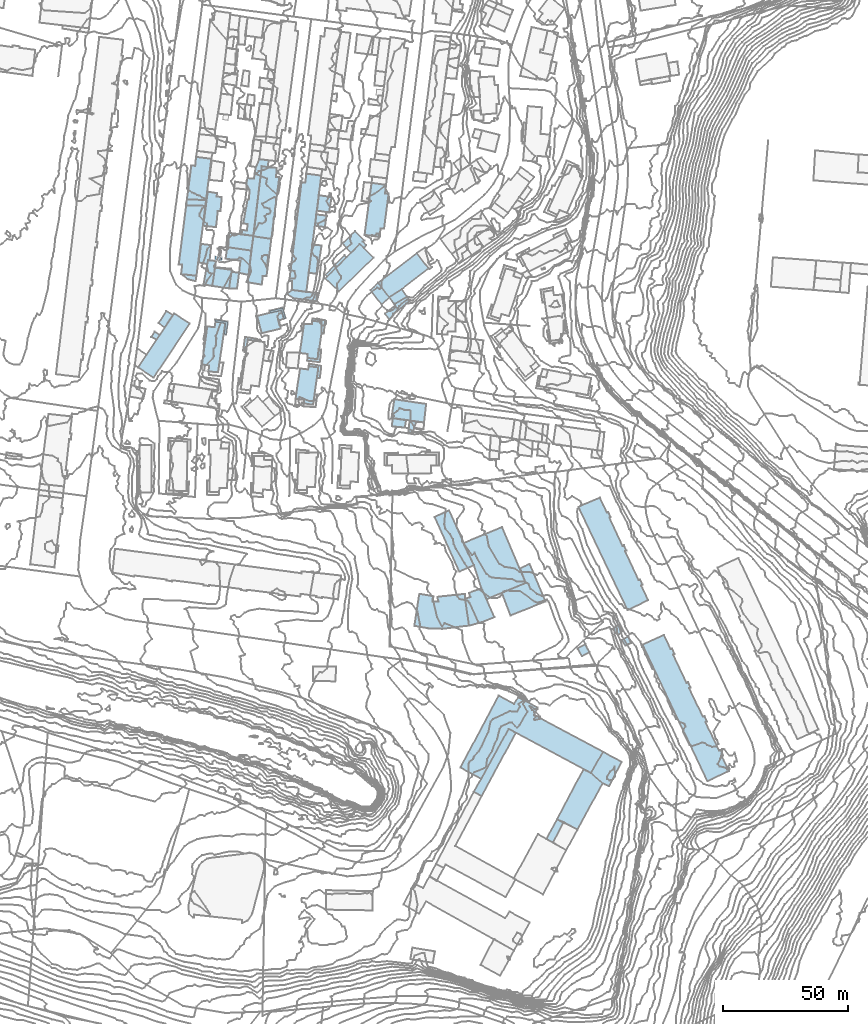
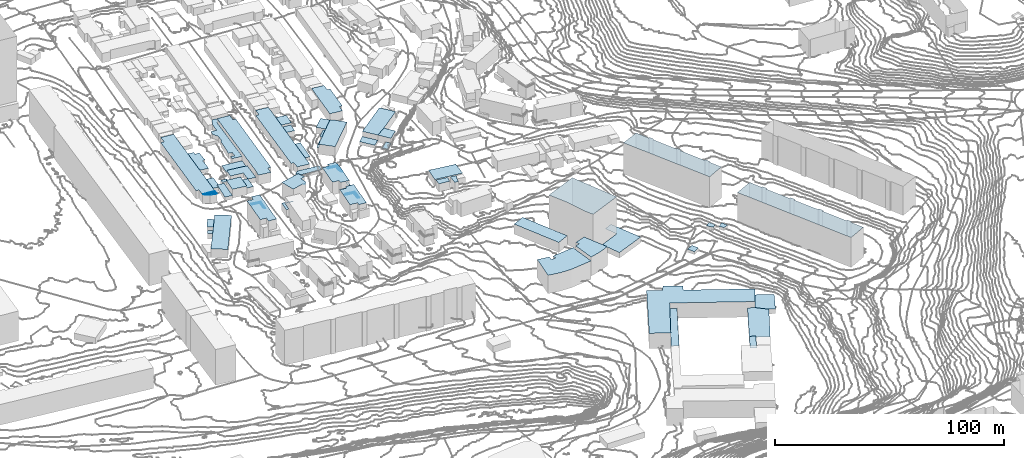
# Not in any storey, part 81 of 419: 57 roofs.
"""IFC2X3 model written with IfcOpenShell, lengths in metres."""

from ifc_helpers import new_model, si_unit, frame, origin_with_axes, place, context, subcontext, project, faceted_brep, element, save


model = new_model("IFC2X3")

# Units and contexts
model_context = context("Model", 3, precision=1e-05, world=origin_with_axes())
body_context = subcontext(model_context, "Body", "Model", "MODEL_VIEW")
ifc_project = project(units=[si_unit("AREAUNIT", "SQUARE_METRE"), si_unit("LENGTHUNIT", "METRE")], contexts=[model_context])

# Roofs
roof_1_placement = place(None, frame((580.0920204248, 606.6976909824, 41.2512004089), z_axis=(0.0, 0.0, 1.0), x_axis=(1.0, 0.0, 0.0)))
element("IfcRoof", 1, at=roof_1_placement, Name="Toiture 0", ShapeType="NOTDEFINED", context=body_context, shape_type="Brep", body=[
    faceted_brep([(9.9, -21.8999999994, 5.3487995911), (15.7, -19.2999999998, 5.3487995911), (5.8, 2.6000000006, 5.3487995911), (0.0, 0.0, 5.3487995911)], [[[0, 1, 2]], [[2, 3, 0]]]),
])
roof_2_placement = place(None, frame((532.2920204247, 723.0976909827, 38.54), z_axis=(0.0, 0.0, 1.0), x_axis=(1.0, 0.0, 0.0)))
element("IfcRoof", 2, at=roof_2_placement, Name="Toiture 0", ShapeType="NOTDEFINED", context=body_context, shape_type="Brep", body=[
    faceted_brep([(4.6000000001, 4.0, 3.06), (0.5, 4.5, 3.06), (0.0, 0.0, 3.06), (3.9, -0.6000000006, 3.06)], [[[0, 1, 2]], [[2, 3, 0]]]),
])
roof_3_placement = place(None, frame((533.0920204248, 729.0976909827, 38.442999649), z_axis=(0.0, 0.0, 1.0), x_axis=(1.0, 0.0, 0.0)))
element("IfcRoof", 3, at=roof_3_placement, Name="Toiture 0", ShapeType="NOTDEFINED", context=body_context, shape_type="Brep", body=[
    faceted_brep([(5.8, 5.3999999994, 3.157000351), (0.7, 6.2000000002, 3.157000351), (0.0, 0.0, 3.157000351), (4.8, -0.7000000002, 3.157000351)], [[[0, 1, 2]], [[2, 3, 0]]]),
])
roof_4_placement = place(None, frame((491.1920204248, 698.9976909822, 35.623999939), z_axis=(0.0, 0.0, 1.0), x_axis=(1.0, 0.0, 0.0)))
element("IfcRoof", 4, at=roof_4_placement, Name="Toiture 0", ShapeType="NOTDEFINED", context=body_context, shape_type="Brep", body=[
    faceted_brep([(0.0, 0.0, 4.676000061), (6.7000000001, -1.0, 4.676000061), (7.8, 6.4000000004, 4.676000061), (1.1, 7.3000000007, 4.676000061)], [[[0, 1, 2]], [[2, 3, 0]]]),
])
roof_5_placement = place(None, frame((628.9920204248, 485.6976909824, 39.5445994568), z_axis=(0.0, 0.0, 1.0), x_axis=(1.0, 0.0, 0.0)))
element("IfcRoof", 5, at=roof_5_placement, Name="Toiture 0", ShapeType="NOTDEFINED", context=body_context, shape_type="Brep", body=[
    faceted_brep([(13.6, 18.5, 2.7554005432), (10.6, 20.0, 2.7554005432), (0.0, 0.0, 2.7554005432), (8.2, -4.0999999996, 2.7554005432), (18.2, 14.4000000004, 2.7554005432)], [[[0, 1, 2]], [[2, 3, 4]], [[4, 0, 2]]]),
])
roof_6_placement = place(None, frame((624.7920204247, 477.7976909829, 39.5445994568), z_axis=(0.0, 0.0, 1.0), x_axis=(1.0, 0.0, 0.0)))
element("IfcRoof", 6, at=roof_6_placement, Name="Toiture 0", ShapeType="NOTDEFINED", context=body_context, shape_type="Brep", body=[
    faceted_brep([(6.8, 6.7999999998, 3.3554005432), (4.2000000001, 7.8999999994, 3.3554005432), (0.0, 0.0, 3.3554005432), (2.6000000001, -1.4000000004, 3.3554005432)], [[[0, 1, 2]], [[2, 3, 0]]]),
])
roof_7_placement = place(None, frame((503.4920204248, 673.0976909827, 36.7057994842), z_axis=(0.0, 0.0, 1.0), x_axis=(1.0, 0.0, 0.0)))
element("IfcRoof", 7, at=roof_7_placement, Name="Toiture 0", ShapeType="NOTDEFINED", context=body_context, shape_type="Brep", body=[
    faceted_brep([(1.9, 4.3999999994, 3.9942005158), (5.7, 3.8999999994, 3.9942005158), (5.7, 4.7000000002, 3.9942005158), (0.7999999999, 5.5, 3.9942005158), (0.0, 0.0, 3.9942005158), (1.2999999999, 0.0999999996, 3.9942005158)], [[[0, 1, 2]], [[3, 4, 5]], [[0, 2, 3]], [[3, 5, 0]]]),
])
roof_8_placement = place(None, frame((514.0920204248, 689.0976909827, 37.3319997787), z_axis=(0.0, 0.0, 1.0), x_axis=(1.0, 0.0, 0.0)))
element("IfcRoof", 8, at=roof_8_placement, Name="Toiture 0", ShapeType="NOTDEFINED", context=body_context, shape_type="Brep", body=[
    faceted_brep([(0.0, 0.0, 3.5680002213), (0.2, -0.7999999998, 3.5680002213), (4.7, 0.2000000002, 3.5680002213), (5.8, -3.2000000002, 3.5680002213), (6.4, -2.9000000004, 3.5680002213), (5.2, 1.2000000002, 3.5680002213)], [[[0, 1, 2]], [[2, 3, 4]], [[5, 0, 2]], [[2, 4, 5]]]),
])
roof_9_placement = place(None, frame((595.6920204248, 496.6976909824, 39.4398013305), z_axis=(0.0, 0.0, 1.0), x_axis=(1.0, 0.0, 0.0)))
element("IfcRoof", 9, at=roof_9_placement, Name="Toiture 0", ShapeType="NOTDEFINED", context=body_context, shape_type="Brep", body=[
    faceted_brep([(3.0, 5.2000000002, 3.1601986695), (0.0, 0.0, 3.1601986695), (3.2000000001, -1.7000000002, 3.1601986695), (16.8, 23.6000000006, 3.1601986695), (14.0, 25.2000000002, 3.1601986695)], [[[0, 1, 2]], [[2, 3, 4]], [[4, 0, 2]]]),
])
roof_10_placement = place(None, frame((536.3920204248, 703.4976909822, 41.2411993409), z_axis=(0.0, 0.0, 1.0), x_axis=(1.0, 0.0, 0.0)))
element("IfcRoof", 10, at=roof_10_placement, Name="Toiture 0", ShapeType="NOTDEFINED", context=body_context, shape_type="Brep", body=[
    faceted_brep([(0.0, 0.0, 2.9588006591), (0.7, -0.6999999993, 2.9588006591), (4.7, 3.2000000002, 2.9588006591), (3.7999999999, 4.0, 2.9588006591)], [[[0, 1, 2]], [[2, 3, 0]]]),
])
roof_11_placement = place(None, frame((496.4920204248, 709.8976909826, 36.4627999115), z_axis=(0.0, 0.0, 1.0), x_axis=(1.0, 0.0, 0.0)))
element("IfcRoof", 11, at=roof_11_placement, Name="Toiture 0", ShapeType="NOTDEFINED", context=body_context, shape_type="Brep", body=[
    faceted_brep([(5.4, -5.7000000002, 2.4372000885), (9.2, -6.5, 2.4372000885), (10.2999999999, 3.2000000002, 2.4372000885), (0.7, 4.5999999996, 2.4372000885), (0.0, 0.0, 2.4372000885), (6.0, -0.7999999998, 2.4372000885)], [[[0, 1, 2]], [[2, 3, 4]], [[5, 0, 2]], [[2, 4, 5]]]),
])
roof_12_placement = place(None, frame((502.8920204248, 719.6976909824, 37.1452000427), z_axis=(0.0, 0.0, 1.0), x_axis=(1.0, 0.0, 0.0)))
element("IfcRoof", 12, at=roof_12_placement, Name="Toiture 0", ShapeType="NOTDEFINED", context=body_context, shape_type="Brep", body=[
    faceted_brep([(10.5, 26.7999999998, 2.8547999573), (10.7999999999, 29.5, 2.8547999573), (7.1, 30.0, 2.8547999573), (5.6, 26.5, 2.8547999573), (5.0, 22.2000000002, 2.8547999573), (2.3999999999, 22.4000000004, 2.8547999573), (1.8999999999, 20.2999999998, 2.8547999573), (2.8999999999, 13.9000000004, 2.8547999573), (2.3999999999, 13.9000000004, 2.8547999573), (0.7, 4.2999999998, 2.8547999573), (2.2, 1.4000000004, 2.8547999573), (0.2999999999, 1.7000000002, 2.8547999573), (0.0, 0.0, 2.8547999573), (8.1, 27.2000000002, 2.8547999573), (3.2999999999, 17.7000000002, 2.8547999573), (2.3999999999, 4.0, 2.8547999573), (4.7999999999, -0.7000000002, 2.8547999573)], [[[0, 1, 2]], [[2, 3, 4]], [[4, 5, 6]], [[7, 8, 9]], [[10, 11, 12]], [[13, 0, 2]], [[4, 6, 14]], [[7, 9, 15]], [[10, 12, 16]], [[16, 13, 2]], [[4, 14, 7]], [[15, 10, 16]], [[16, 2, 4]], [[4, 7, 15]], [[15, 16, 4]]]),
])
roof_13_placement = place(None, frame((554.4920204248, 697.3976909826, 42.8836994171), z_axis=(0.0, 0.0, 1.0), x_axis=(1.0, 0.0, 0.0)))
element("IfcRoof", 13, at=roof_13_placement, Name="Toiture 0", ShapeType="NOTDEFINED", context=body_context, shape_type="Brep", body=[
    faceted_brep([(4.4, -5.7000000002, 1.6163005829), (7.5, -2.9000000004, 1.6163005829), (3.0, 2.9000000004, 1.6163005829), (0.0, 0.0, 1.6163005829)], [[[0, 1, 2]], [[2, 3, 0]]]),
])
roof_14_placement = place(None, frame((469.6920204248, 684.0976909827, 34.6607994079), z_axis=(0.0, 0.0, 1.0), x_axis=(1.0, 0.0, 0.0)))
element("IfcRoof", 14, at=roof_14_placement, Name="Toiture 0", ShapeType="NOTDEFINED", context=body_context, shape_type="Brep", body=[
    faceted_brep([(2.4, -1.7000000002, 2.2392005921), (5.7000000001, 3.2000000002, 2.2392005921), (3.1, 4.8999999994, 2.2392005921), (0.0, 0.0, 2.2392005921)], [[[0, 1, 2]], [[2, 3, 0]]]),
])
roof_15_placement = place(None, frame((531.1920204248, 685.0976909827, 41.7803999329), z_axis=(0.0, 0.0, 1.0), x_axis=(1.0, 0.0, 0.0)))
element("IfcRoof", 15, at=roof_15_placement, Name="Toiture 0", ShapeType="NOTDEFINED", context=body_context, shape_type="Brep", body=[
    faceted_brep([(0.1, 0.8999999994, 3.9196000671), (0.0, 0.0, 3.9196000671), (3.8, -0.5, 3.9196000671), (3.7000000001, -4.9000000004, 3.9196000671), (4.6, -5.1000000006, 3.9196000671), (5.1, 0.0999999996, 3.9196000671)], [[[0, 1, 2]], [[2, 3, 4]], [[5, 0, 2]], [[2, 4, 5]]]),
])
roof_16_placement = place(None, frame((487.5920204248, 723.0976909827, 34.9640010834), z_axis=(0.0, 0.0, 1.0), x_axis=(1.0, 0.0, 0.0)))
element("IfcRoof", 16, at=roof_16_placement, Name="Toiture 0", ShapeType="NOTDEFINED", context=body_context, shape_type="Brep", body=[
    faceted_brep([(5.5, 13.0, 1.8359989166), (1.8, 13.5999999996, 1.8359989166), (0.0, 0.0, 1.8359989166), (5.1, -0.6000000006, 1.8359989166), (5.8, 5.7999999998, 1.8359989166), (6.9, 5.7999999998, 1.8359989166), (7.4, 11.5, 1.8359989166), (5.3, 11.5999999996, 1.8359989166)], [[[0, 1, 2]], [[2, 3, 4]], [[4, 5, 6]], [[7, 0, 2]], [[2, 4, 6]], [[6, 7, 2]]]),
])
roof_17_placement = place(None, frame((592.2920204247, 573.9976909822, 40.4176000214), z_axis=(0.0, 0.0, 1.0), x_axis=(1.0, 0.0, 0.0)))
element("IfcRoof", 17, at=roof_17_placement, Name="Toiture 0", ShapeType="NOTDEFINED", context=body_context, shape_type="Brep", body=[
    faceted_brep([(2.1000000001, 0.6000000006, 10.0823999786), (0.0, 0.0, 10.0823999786), (1.6000000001, -10.7999999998, 10.0823999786), (6.8, -9.3999999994, 10.0823999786), (11.7000000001, -7.3999999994, 10.0823999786), (6.6000000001, 4.1000000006, 10.0823999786), (1.5, 2.3000000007, 10.0823999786)], [[[0, 1, 2]], [[2, 3, 4]], [[4, 5, 6]], [[0, 2, 4]], [[4, 6, 0]]]),
])
roof_18_placement = place(None, frame((561.9920204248, 694.4976909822, 43.3685993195), z_axis=(0.0, 0.0, 1.0), x_axis=(1.0, 0.0, 0.0)))
element("IfcRoof", 18, at=roof_18_placement, Name="Toiture 0", ShapeType="NOTDEFINED", context=body_context, shape_type="Brep", body=[
    faceted_brep([(5.0, 3.3000000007, 3.8314006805), (0.0, 0.0, 3.8314006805), (3.7, -5.0999999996, 3.8314006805), (8.2, -1.1999999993, 3.8314006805)], [[[0, 1, 2]], [[2, 3, 0]]]),
])
roof_19_placement = place(None, frame((543.2920204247, 716.0976909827, 41.3683003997), z_axis=(0.0, 0.0, 1.0), x_axis=(1.0, 0.0, 0.0)))
element("IfcRoof", 19, at=roof_19_placement, Name="Toiture 0", ShapeType="NOTDEFINED", context=body_context, shape_type="Brep", body=[
    faceted_brep([(6.8, -0.4000000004, 3.4316996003), (8.6000000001, -1.9000000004, 3.4316996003), (9.4, -0.7999999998, 3.4316996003), (8.0, 0.5999999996, 3.4316996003), (8.7000000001, 1.0999999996, 3.4316996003), (5.0, 4.8999999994, 3.4316996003), (0.0, 0.0, 3.4316996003), (3.4, -3.7999999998, 3.4316996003)], [[[0, 1, 2]], [[3, 4, 5]], [[5, 6, 7]], [[0, 2, 3]], [[5, 7, 0]], [[0, 3, 5]]]),
])
roof_20_placement = place(None, frame((571.9920204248, 563.0976909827, 38.7227992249), z_axis=(0.0, 0.0, 1.0), x_axis=(1.0, 0.0, 0.0)))
element("IfcRoof", 20, at=roof_20_placement, Name="Toiture 0", ShapeType="NOTDEFINED", context=body_context, shape_type="Brep", body=[
    faceted_brep([(20.2999999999, 10.8999999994, 9.7772007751), (20.2999999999, 12.7999999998, 9.7772007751), (9.2, 11.5999999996, 9.7772007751), (7.2999999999, 9.7000000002, 9.7772007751), (7.6, 11.7999999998, 9.7772007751), (2.0, 12.7999999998, 9.7772007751), (0.0, 0.0, 9.7772007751), (5.6, -1.0, 9.7772007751), (11.1, -1.2000000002, 9.7772007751), (21.9, 0.0999999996, 9.7772007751), (9.6, 9.7999999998, 9.7772007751)], [[[0, 1, 2]], [[3, 4, 5]], [[5, 6, 7]], [[7, 8, 9]], [[9, 0, 2]], [[3, 5, 7]], [[9, 2, 10]], [[10, 3, 7]], [[7, 9, 10]]]),
])
roof_21_placement = place(None, frame((591.5920204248, 596.1976909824, 41.9024003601), z_axis=(0.0, 0.0, 1.0), x_axis=(1.0, 0.0, 0.0)))
element("IfcRoof", 21, at=roof_21_placement, Name="Toiture 0", ShapeType="NOTDEFINED", context=body_context, shape_type="Brep", body=[
    faceted_brep([(4.2, -8.7999999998, 22.4975996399), (7.3, -18.0999999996, 22.4975996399), (9.4, -22.3999999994, 22.4975996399), (25.0, -15.8999999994, 22.4975996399), (15.5, 6.4000000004, 22.4975996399), (0.0, 0.0, 22.4975996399)], [[[0, 1, 2]], [[2, 3, 4]], [[4, 5, 0]], [[0, 2, 4]]]),
])
roof_22_placement = place(None, frame((562.9920204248, 642.8976909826, 47.7364006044), z_axis=(0.0, 0.0, 1.0), x_axis=(1.0, 0.0, 0.0)))
element("IfcRoof", 22, at=roof_22_placement, Name="Toiture 0", ShapeType="NOTDEFINED", context=body_context, shape_type="Brep", body=[
    faceted_brep([(5.7, 2.4000000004, 4.3635993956), (0.4, 3.2000000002, 4.3635993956), (0.0, 0.0, 4.3635993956), (5.2, -0.5999999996, 4.3635993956)], [[[0, 1, 2]], [[2, 3, 0]]]),
])
roof_23_placement = place(None, frame((606.9920204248, 576.2976909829, 41.6300006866), z_axis=(0.0, 0.0, 1.0), x_axis=(1.0, 0.0, 0.0)))
element("IfcRoof", 23, at=roof_23_placement, Name="Toiture 0", ShapeType="NOTDEFINED", context=body_context, shape_type="Brep", body=[
    faceted_brep([(9.6, 4.0, 2.9699993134), (0.0, 0.0, 2.9699993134), (3.5, -9.0, 2.9699993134), (17.5, -3.4000000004, 2.9699993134), (11.1, 11.5999999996, 2.9699993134), (7.2999999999, 9.7999999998, 2.9699993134)], [[[0, 1, 2]], [[3, 4, 5]], [[0, 2, 3]], [[3, 5, 0]]]),
])
roof_24_placement = place(None, frame((557.4920204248, 700.2976909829, 42.8836994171), z_axis=(0.0, 0.0, 1.0), x_axis=(1.0, 0.0, 0.0)))
element("IfcRoof", 24, at=roof_24_placement, Name="Toiture 0", ShapeType="NOTDEFINED", context=body_context, shape_type="Brep", body=[
    faceted_brep([(9.5, -2.5, 4.3163005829), (20.2, 5.7999999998, 4.3163005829), (15.5, 11.8999999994, 4.3163005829), (0.0, 0.0, 4.3163005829), (4.5, -5.8000000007, 4.3163005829)], [[[0, 1, 2]], [[2, 3, 4]], [[4, 0, 2]]]),
])
roof_25_placement = place(None, frame((524.4920204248, 653.7976909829, 40.8986994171), z_axis=(0.0, 0.0, 1.0), x_axis=(1.0, 0.0, 0.0)))
element("IfcRoof", 25, at=roof_25_placement, Name="Toiture 0", ShapeType="NOTDEFINED", context=body_context, shape_type="Brep", body=[
    faceted_brep([(1.7999999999, 12.1999999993, 6.9013005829), (0.0, 0.0, 6.9013005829), (3.5, -0.4000000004, 6.9013005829), (3.4, -1.8000000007, 6.9013005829), (7.0, -2.3000000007, 6.9013005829), (9.1, 12.5999999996, 6.9013005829), (5.2999999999, 13.0999999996, 6.9013005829), (5.0, 11.7999999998, 6.9013005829)], [[[0, 1, 2]], [[2, 3, 4]], [[4, 5, 6]], [[7, 0, 2]], [[2, 4, 6]], [[6, 7, 2]]]),
])
roof_26_placement = place(None, frame((642.5920204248, 504.1976909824, 39.7652008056), z_axis=(0.0, 0.0, 1.0), x_axis=(1.0, 0.0, 0.0)))
element("IfcRoof", 26, at=roof_26_placement, Name="Toiture 0", ShapeType="NOTDEFINED", context=body_context, shape_type="Brep", body=[
    faceted_brep([(4.8, 8.5, 2.5347991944), (0.0, 0.0, 2.5347991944), (4.6, -4.0999999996, 2.5347991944), (7.3, -5.2000000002, 2.5347991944), (12.2, 4.5, 2.5347991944)], [[[0, 1, 2]], [[2, 3, 4]], [[4, 0, 2]]]),
])
roof_27_placement = place(None, frame((540.1920204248, 707.4976909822, 42.1155997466), z_axis=(0.0, 0.0, 1.0), x_axis=(1.0, 0.0, 0.0)))
element("IfcRoof", 27, at=roof_27_placement, Name="Toiture 0", ShapeType="NOTDEFINED", context=body_context, shape_type="Brep", body=[
    faceted_brep([(0.0, 0.0, 3.9844002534), (0.9, -0.7999999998, 3.9844002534), (4.7000000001, 3.0, 3.9844002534), (3.9, 3.8000000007, 3.9844002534)], [[[0, 1, 2]], [[2, 3, 0]]]),
])
roof_28_placement = place(None, frame((651.2920204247, 561.8976909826, 45.8280008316), z_axis=(0.0, 0.0, 1.0), x_axis=(1.0, 0.0, 0.0)))
element("IfcRoof", 28, at=roof_28_placement, Name="Toiture 0", ShapeType="NOTDEFINED", context=body_context, shape_type="Brep", body=[
    faceted_brep([(4.0, -0.9000000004, 2.0719991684), (2.3, 1.5999999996, 2.0719991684), (0.0, 0.0, 2.0719991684), (2.1000000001, -2.5, 2.0719991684)], [[[0, 1, 2]], [[2, 3, 0]]]),
])
roof_29_placement = place(None, frame((529.7920204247, 704.2976909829, 38.294998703), z_axis=(0.0, 0.0, 1.0), x_axis=(1.0, 0.0, 0.0)))
element("IfcRoof", 29, at=roof_29_placement, Name="Toiture 0", ShapeType="NOTDEFINED", context=body_context, shape_type="Brep", body=[
    faceted_brep([(1.4, 11.1999999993, 1.805001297), (0.0, 0.0, 1.805001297), (3.3, -0.5, 1.805001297), (5.1000000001, 10.8999999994, 1.805001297)], [[[0, 1, 2]], [[2, 3, 0]]]),
])
roof_30_placement = place(None, frame((520.9920204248, 695.7976909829, 38.1628002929), z_axis=(0.0, 0.0, 1.0), x_axis=(1.0, 0.0, 0.0)))
element("IfcRoof", 30, at=roof_30_placement, Name="Toiture 0", ShapeType="NOTDEFINED", context=body_context, shape_type="Brep", body=[
    faceted_brep([(12.2, 0.2999999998, 1.7371997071), (2.0, 1.5999999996, 1.7371997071), (0.0, 0.0, 1.7371997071), (2.6, -1.7000000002, 1.7371997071), (11.7, -2.9000000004, 1.7371997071)], [[[0, 1, 2]], [[2, 3, 4]], [[4, 0, 2]]]),
])
roof_31_placement = place(None, frame((492.0920204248, 709.2976909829, 35.5023989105), z_axis=(0.0, 0.0, 1.0), x_axis=(1.0, 0.0, 0.0)))
element("IfcRoof", 31, at=roof_31_placement, Name="Toiture 0", ShapeType="NOTDEFINED", context=body_context, shape_type="Brep", body=[
    faceted_brep([(0.0, 0.0, 1.8976010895), (2.8, -0.4000000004, 1.8976010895), (3.1, 1.5, 1.8976010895), (0.1, 1.7999999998, 1.8976010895)], [[[0, 1, 2]], [[2, 3, 0]]]),
])
roof_32_placement = place(None, frame((487.6920204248, 699.5976909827, 35.014600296), z_axis=(0.0, 0.0, 1.0), x_axis=(1.0, 0.0, 0.0)))
element("IfcRoof", 32, at=roof_32_placement, Name="Toiture 0", ShapeType="NOTDEFINED", context=body_context, shape_type="Brep", body=[
    faceted_brep([(1.5, 8.0999999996, 1.985399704), (0.0, 0.0, 1.985399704), (3.5, -0.6000000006, 1.985399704), (5.0, 9.2999999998, 1.985399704), (1.8, 9.7999999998, 1.985399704)], [[[0, 1, 2]], [[2, 3, 4]], [[4, 0, 2]]]),
])
roof_33_placement = place(None, frame((560.2920204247, 687.9976909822, 44.2156001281), z_axis=(0.0, 0.0, 1.0), x_axis=(1.0, 0.0, 0.0)))
element("IfcRoof", 33, at=roof_33_placement, Name="Toiture 0", ShapeType="NOTDEFINED", context=body_context, shape_type="Brep", body=[
    faceted_brep([(5.4, 1.4000000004, 0.4843998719), (3.9, 3.3000000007, 0.4843998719), (0.0, 0.0, 0.4843998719), (1.6000000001, -2.1999999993, 0.4843998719)], [[[0, 1, 2]], [[2, 3, 0]]]),
])
roof_34_placement = place(None, frame((654.9920204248, 557.3976909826, 47.5459991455), z_axis=(0.0, 0.0, 1.0), x_axis=(1.0, 0.0, 0.0)))
element("IfcRoof", 34, at=roof_34_placement, Name="Toiture 0", ShapeType="NOTDEFINED", context=body_context, shape_type="Brep", body=[
    faceted_brep([(2.6, 1.5999999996, 1.5540008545), (0.0, 0.0, 1.5540008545), (1.4, -2.0999999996, 1.5540008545), (3.6, -1.2000000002, 1.5540008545)], [[[0, 1, 2]], [[2, 3, 0]]]),
])
roof_35_placement = place(None, frame((536.3920204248, 701.9976909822, 41.3607991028), z_axis=(0.0, 0.0, 1.0), x_axis=(1.0, 0.0, 0.0)))
element("IfcRoof", 35, at=roof_35_placement, Name="Toiture 0", ShapeType="NOTDEFINED", context=body_context, shape_type="Brep", body=[
    faceted_brep([(19.2, 8.4000000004, 5.3392008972), (15.5, 12.2000000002, 5.3392008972), (13.7, 13.7000000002, 5.3392008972), (0.0, 0.0, 5.3392008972), (5.3999999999, -5.1999999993, 5.3392008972)], [[[0, 1, 2]], [[2, 3, 4]], [[4, 0, 2]]]),
])
roof_36_placement = place(None, frame((497.1920204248, 714.4976909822, 36.4867996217), z_axis=(0.0, 0.0, 1.0), x_axis=(1.0, 0.0, 0.0)))
element("IfcRoof", 36, at=roof_36_placement, Name="Toiture 0", ShapeType="NOTDEFINED", context=body_context, shape_type="Brep", body=[
    faceted_brep([(9.6, -1.3999999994, 1.2132003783), (10.5, 4.5, 1.2132003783), (0.8, 5.7000000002, 1.2132003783), (0.0, 0.0, 1.2132003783)], [[[0, 1, 2]], [[2, 3, 0]]]),
])
roof_37_placement = place(None, frame((529.0920204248, 669.0976909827, 41.3235997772), z_axis=(0.0, 0.0, 1.0), x_axis=(1.0, 0.0, 0.0)))
element("IfcRoof", 37, at=roof_37_placement, Name="Toiture 0", ShapeType="NOTDEFINED", context=body_context, shape_type="Brep", body=[
    faceted_brep([(4.2, 0.5999999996, 3.1764002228), (0.2, 1.0999999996, 3.1764002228), (0.0, 0.0, 3.1764002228), (5.1, -0.6000000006, 3.1764002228), (5.7, 4.5, 3.1764002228), (4.6, 4.5999999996, 3.1764002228)], [[[0, 1, 2]], [[3, 4, 5]], [[0, 2, 3]], [[3, 5, 0]]]),
])
roof_38_placement = place(None, frame((529.7920204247, 666.8976909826, 41.1484007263), z_axis=(0.0, 0.0, 1.0), x_axis=(1.0, 0.0, 0.0)))
element("IfcRoof", 38, at=roof_38_placement, Name="Toiture 0", ShapeType="NOTDEFINED", context=body_context, shape_type="Brep", body=[
    faceted_brep([(0.1000000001, 1.0, 2.0515992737), (0.0, 0.0, 2.0515992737), (3.8, -0.5, 2.0515992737), (3.3, -4.7000000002, 2.0515992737), (4.4, -4.7999999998, 2.0515992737), (5.0, 0.0999999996, 2.0515992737)], [[[0, 1, 2]], [[2, 3, 4]], [[5, 0, 2]], [[2, 4, 5]]]),
])
roof_39_placement = place(None, frame((637.2920204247, 554.0976909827, 43.4216000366), z_axis=(0.0, 0.0, 1.0), x_axis=(1.0, 0.0, 0.0)))
element("IfcRoof", 39, at=roof_39_placement, Name="Toiture 0", ShapeType="NOTDEFINED", context=body_context, shape_type="Brep", body=[
    faceted_brep([(4.7000000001, -1.5, 1.5783999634), (3.1000000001, 1.7000000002, 1.5783999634), (0.0, 0.0, 1.5783999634), (1.7000000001, -3.1000000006, 1.5783999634)], [[[0, 1, 2]], [[2, 3, 0]]]),
])
roof_40_placement = place(None, frame((492.3920204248, 685.5976909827, 35.6831993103), z_axis=(0.0, 0.0, 1.0), x_axis=(1.0, 0.0, 0.0)))
element("IfcRoof", 40, at=roof_40_placement, Name="Toiture 0", ShapeType="NOTDEFINED", context=body_context, shape_type="Brep", body=[
    faceted_brep([(4.0, -1.5, 4.5168006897), (3.5, -5.7000000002, 4.5168006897), (4.2999999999, -6.1000000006, 4.5168006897), (5.0, -0.9000000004, 4.5168006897), (0.0, 0.0, 4.5168006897), (0.1, -0.9000000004, 4.5168006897)], [[[0, 1, 2]], [[3, 4, 5]], [[0, 2, 3]], [[3, 5, 0]]]),
])
roof_41_placement = place(None, frame((485.7920204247, 708.3976909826, 34.6597991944), z_axis=(0.0, 0.0, 1.0), x_axis=(1.0, 0.0, 0.0)))
element("IfcRoof", 41, at=roof_41_placement, Name="Toiture 0", ShapeType="NOTDEFINED", context=body_context, shape_type="Brep", body=[
    faceted_brep([(0.9, 7.4000000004, 2.1402008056), (0.0, 0.0, 2.1402008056), (3.4, -0.7000000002, 2.1402008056), (3.7000000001, 1.0, 2.1402008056), (4.3, 0.7000000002, 2.1402008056), (5.0, 6.9000000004, 2.1402008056)], [[[0, 1, 2]], [[3, 4, 5]], [[0, 2, 3]], [[3, 5, 0]]]),
])
roof_42_placement = place(None, frame((466.7920204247, 678.5976909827, 34.5924002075), z_axis=(0.0, 0.0, 1.0), x_axis=(1.0, 0.0, 0.0)))
element("IfcRoof", 42, at=roof_42_placement, Name="Toiture 0", ShapeType="NOTDEFINED", context=body_context, shape_type="Brep", body=[
    faceted_brep([(0.0, 0.0, 3.0075997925), (2.0, -1.1000000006, 3.0075997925), (3.3, 0.7999999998, 3.0075997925), (1.4, 2.0999999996, 3.0075997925)], [[[0, 1, 2]], [[2, 3, 0]]]),
])
roof_43_placement = place(None, frame((569.5920204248, 640.3976909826, 46.9099998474), z_axis=(0.0, 0.0, 1.0), x_axis=(1.0, 0.0, 0.0)))
element("IfcRoof", 43, at=roof_43_placement, Name="Toiture 0", ShapeType="NOTDEFINED", context=body_context, shape_type="Brep", body=[
    faceted_brep([(2.3, 1.9000000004, 5.0900001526), (3.2, 4.2999999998, 5.0900001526), (0.5, 4.7000000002, 5.0900001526), (0.0, 0.0, 5.0900001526), (1.9, 0.0, 5.0900001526)], [[[0, 1, 2]], [[2, 3, 4]], [[4, 0, 2]]]),
])
roof_44_placement = place(None, frame((590.3920204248, 506.3976909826, 37.3095994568), z_axis=(0.0, 0.0, 1.0), x_axis=(1.0, 0.0, 0.0)))
element("IfcRoof", 44, at=roof_44_placement, Name="Toiture 0", ShapeType="NOTDEFINED", context=body_context, shape_type="Brep", body=[
    faceted_brep([(0.0, 0.0, 8.1904005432), (8.2999999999, -4.5, 8.1904005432), (19.2999999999, 15.5, 8.1904005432), (52.2, -2.2000000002, 8.1904005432), (57.0, 6.2999999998, 8.1904005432), (29.3999999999, 21.0999999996, 8.1904005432), (30.8999999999, 24.0, 8.1904005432), (23.1, 28.0999999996, 8.1904005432), (21.3999999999, 25.4000000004, 8.1904005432), (15.2999999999, 28.7999999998, 8.1904005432)], [[[0, 1, 2]], [[2, 3, 4]], [[5, 6, 7]], [[8, 9, 0]], [[2, 4, 5]], [[5, 7, 8]], [[8, 0, 2]], [[2, 5, 8]]]),
])
roof_45_placement = place(None, frame((487.0920204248, 667.5976909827, 35.2327999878), z_axis=(0.0, 0.0, 1.0), x_axis=(1.0, 0.0, 0.0)))
element("IfcRoof", 45, at=roof_45_placement, Name="Toiture 0", ShapeType="NOTDEFINED", context=body_context, shape_type="Brep", body=[
    faceted_brep([(2.9, -0.4000000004, 9.3672000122), (2.6, -2.7999999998, 9.3672000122), (6.4, -3.1000000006, 9.3672000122), (9.3, 16.5, 9.3672000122), (5.4, 17.0999999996, 9.3672000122), (5.0, 14.8999999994, 9.3672000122), (2.1, 15.2000000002, 9.3672000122), (0.0, 0.0, 9.3672000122)], [[[0, 1, 2]], [[2, 3, 4]], [[5, 6, 7]], [[0, 2, 4]], [[5, 7, 0]], [[0, 4, 5]]]),
])
roof_46_placement = place(None, frame((504.9920204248, 700.4976909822, 36.9749997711), z_axis=(0.0, 0.0, 1.0), x_axis=(1.0, 0.0, 0.0)))
element("IfcRoof", 46, at=roof_46_placement, Name="Toiture 0", ShapeType="NOTDEFINED", context=body_context, shape_type="Brep", body=[
    faceted_brep([(8.4, 46.0, 5.1250002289), (6.0, 46.4000000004, 5.1250002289), (0.7, 2.9000000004, 5.1250002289), (0.0, 0.0, 5.1250002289), (6.0, -1.0, 5.1250002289), (6.4, 2.5, 5.1250002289), (7.9, 2.5, 5.1250002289), (13.0, 42.0, 5.1250002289), (11.7, 42.1000000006, 5.1250002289), (12.0, 45.7000000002, 5.1250002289)], [[[0, 1, 2]], [[2, 3, 4]], [[5, 6, 7]], [[8, 9, 0]], [[0, 2, 4]], [[5, 7, 8]], [[0, 4, 5]], [[5, 8, 0]]]),
])
roof_47_placement = place(None, frame((663.2920204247, 555.5976909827, 49.3428007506), z_axis=(0.0, 0.0, 1.0), x_axis=(1.0, 0.0, 0.0)))
element("IfcRoof", 47, at=roof_47_placement, Name="Toiture 0", ShapeType="NOTDEFINED", context=body_context, shape_type="Brep", body=[
    faceted_brep([(0.0, 0.0, 15.9571992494), (25.9, -54.6000000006, 15.9571992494), (34.5, -50.5, 15.9571992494), (31.6000000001, -44.5, 15.9571992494), (32.2000000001, -44.2999999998, 15.9571992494), (31.2000000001, -42.1000000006, 15.9571992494), (25.1000000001, -30.9000000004, 15.9571992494), (25.7000000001, -30.7000000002, 15.9571992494), (24.7000000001, -28.5, 15.9571992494), (18.6000000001, -17.4000000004, 15.9571992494), (19.2000000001, -17.1000000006, 15.9571992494), (18.2000000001, -15.0, 15.9571992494), (12.2000000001, -4.0, 15.9571992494), (12.8, -3.7000000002, 15.9571992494), (11.8, -1.6000000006, 15.9571992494), (11.2000000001, -1.7999999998, 15.9571992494), (8.5, 3.8999999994, 15.9571992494), (30.6000000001, -42.4000000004, 15.9571992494), (24.1000000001, -28.7999999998, 15.9571992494), (17.6000000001, -15.2999999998, 15.9571992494)], [[[0, 1, 2]], [[3, 4, 5]], [[6, 7, 8]], [[9, 10, 11]], [[12, 13, 14]], [[15, 16, 0]], [[0, 2, 3]], [[3, 5, 17]], [[6, 8, 18]], [[9, 11, 19]], [[12, 14, 15]], [[0, 3, 17]], [[6, 18, 9]], [[9, 19, 12]], [[12, 15, 0]], [[0, 17, 6]], [[9, 12, 0]], [[0, 6, 9]]]),
])
roof_48_placement = place(None, frame((637.5920204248, 610.6976909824, 50.8569999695), z_axis=(0.0, 0.0, 1.0), x_axis=(1.0, 0.0, 0.0)))
element("IfcRoof", 48, at=roof_48_placement, Name="Toiture 0", ShapeType="NOTDEFINED", context=body_context, shape_type="Brep", body=[
    faceted_brep([(19.7, -41.2999999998, 16.5430000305), (27.9, -37.2999999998, 16.5430000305), (25.1, -31.3999999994, 16.5430000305), (25.6, -31.0999999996, 16.5430000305), (24.7, -29.0, 16.5430000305), (18.6, -17.5999999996, 16.5430000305), (19.2, -17.3999999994, 16.5430000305), (18.2, -15.2999999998, 16.5430000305), (12.4, -4.2999999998, 16.5430000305), (12.9, -4.0999999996, 16.5430000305), (11.9, -2.0, 16.5430000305), (11.4, -2.2999999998, 16.5430000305), (8.6, 3.7000000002, 16.5430000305), (0.0, 0.0, 16.5430000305), (24.1, -29.2999999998, 16.5430000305), (17.7, -15.5999999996, 16.5430000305)], [[[0, 1, 2]], [[2, 3, 4]], [[5, 6, 7]], [[8, 9, 10]], [[11, 12, 13]], [[13, 0, 2]], [[2, 4, 14]], [[5, 7, 15]], [[8, 10, 11]], [[13, 2, 14]], [[5, 15, 8]], [[8, 11, 13]], [[13, 14, 5]], [[5, 8, 13]]]),
])
roof_49_placement = place(None, frame((478.6920204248, 703.6976909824, 34.6267008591), z_axis=(0.0, 0.0, 1.0), x_axis=(1.0, 0.0, 0.0)))
element("IfcRoof", 49, at=roof_49_placement, Name="Toiture 0", ShapeType="NOTDEFINED", context=body_context, shape_type="Brep", body=[
    faceted_brep([(6.2000000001, -0.5999999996, 4.4732991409), (0.0, 0.0, 4.4732991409), (2.7000000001, -2.0, 4.4732991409), (5.8, -2.7999999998, 4.4732991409)], [[[0, 1, 2]], [[2, 3, 0]]]),
])
roof_50_placement = place(None, frame((521.9920204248, 700.9976909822, 38.0867002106), z_axis=(0.0, 0.0, 1.0), x_axis=(1.0, 0.0, 0.0)))
element("IfcRoof", 50, at=roof_50_placement, Name="Toiture 0", ShapeType="NOTDEFINED", context=body_context, shape_type="Brep", body=[
    faceted_brep([(1.2, -0.0999999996, 4.0132997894), (1.0, -3.5999999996, 4.0132997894), (6.7999999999, -4.3999999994, 4.0132997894), (12.7999999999, 42.1000000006, 4.0132997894), (6.7999999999, 42.9000000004, 4.0132997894), (6.4, 39.3000000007, 4.0132997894), (4.9, 39.5, 4.0132997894), (0.0, 0.0, 4.0132997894)], [[[0, 1, 2]], [[2, 3, 4]], [[5, 6, 7]], [[2, 4, 5]], [[5, 7, 0]], [[0, 2, 5]]]),
])
roof_51_placement = place(None, frame((477.7920204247, 707.5976909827, 34.5523995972), z_axis=(0.0, 0.0, 1.0), x_axis=(1.0, 0.0, 0.0)))
element("IfcRoof", 51, at=roof_51_placement, Name="Toiture 0", ShapeType="NOTDEFINED", context=body_context, shape_type="Brep", body=[
    faceted_brep([(1.4, -0.1000000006, 4.4476004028), (0.9, -3.9000000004, 4.4476004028), (7.1000000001, -4.5, 4.4476004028), (13.0, 42.2000000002, 4.4476004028), (6.9, 43.0, 4.4476004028), (6.6000000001, 39.3999999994, 4.4476004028), (5.0, 39.5999999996, 4.4476004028), (0.0, 0.0, 4.4476004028)], [[[0, 1, 2]], [[2, 3, 4]], [[5, 6, 7]], [[2, 4, 5]], [[5, 7, 0]], [[0, 2, 5]]]),
])
roof_52_placement = place(None, frame((497.8920204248, 697.9976909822, 36.0491007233), z_axis=(0.0, 0.0, 1.0), x_axis=(1.0, 0.0, 0.0)))
element("IfcRoof", 52, at=roof_52_placement, Name="Toiture 0", ShapeType="NOTDEFINED", context=body_context, shape_type="Brep", body=[
    faceted_brep([(3.2, -0.0999999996, 3.0508992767), (4.0, 6.2000000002, 3.0508992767), (1.0, 6.7000000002, 3.0508992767), (0.0, 0.0, 3.0508992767)], [[[0, 1, 2]], [[2, 3, 0]]]),
])
roof_53_placement = place(None, frame((562.8920204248, 646.1976909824, 48.7956011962), z_axis=(0.0, 0.0, 1.0), x_axis=(1.0, 0.0, 0.0)))
element("IfcRoof", 53, at=roof_53_placement, Name="Toiture 0", ShapeType="NOTDEFINED", context=body_context, shape_type="Brep", body=[
    faceted_brep([(0.0, 0.0, 3.6043988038), (13.0, -1.7999999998, 3.6043988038), (13.7999999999, 5.6000000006, 3.6043988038), (1.1, 7.5, 3.6043988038)], [[[0, 1, 2]], [[2, 3, 0]]]),
])
roof_54_placement = place(None, frame((509.1920204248, 686.9976909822, 37.0455993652), z_axis=(0.0, 0.0, 1.0), x_axis=(1.0, 0.0, 0.0)))
element("IfcRoof", 54, at=roof_54_placement, Name="Toiture 0", ShapeType="NOTDEFINED", context=body_context, shape_type="Brep", body=[
    faceted_brep([(9.6, 2.3000000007, 7.8544006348), (5.1, 1.3000000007, 7.8544006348), (0.0, 0.0, 7.8544006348), (1.8, -6.8999999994, 7.8544006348), (9.4, -5.0, 7.8544006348), (8.7000000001, -1.6999999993, 7.8544006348), (10.7000000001, -1.0999999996, 7.8544006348)], [[[0, 1, 2]], [[2, 3, 4]], [[5, 6, 0]], [[2, 4, 5]], [[5, 0, 2]]]),
])
roof_55_placement = place(None, frame((461.4920204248, 666.3976909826, 34.0620014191), z_axis=(0.0, 0.0, 1.0), x_axis=(1.0, 0.0, 0.0)))
element("IfcRoof", 55, at=roof_55_placement, Name="Toiture 0", ShapeType="NOTDEFINED", context=body_context, shape_type="Brep", body=[
    faceted_brep([(14.4, 21.5999999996, 4.6379985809), (0.0, 0.0, 4.6379985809), (6.2, -4.0999999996, 4.6379985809), (20.6, 17.5999999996, 4.6379985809)], [[[0, 1, 2]], [[2, 3, 0]]]),
])
roof_56_placement = place(None, frame((526.1920204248, 672.1976909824, 41.2869987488), z_axis=(0.0, 0.0, 1.0), x_axis=(1.0, 0.0, 0.0)))
element("IfcRoof", 56, at=roof_56_placement, Name="Toiture 0", ShapeType="NOTDEFINED", context=body_context, shape_type="Brep", body=[
    faceted_brep([(5.0, 11.5, 6.8130012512), (1.7000000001, 11.7000000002, 6.8130012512), (0.0, 0.0, 6.8130012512), (3.1, -0.3999999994, 6.8130012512), (3.1, -2.0, 6.8130012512), (7.1, -2.5, 6.8130012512), (8.7000000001, 8.0, 6.8130012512), (8.8, 12.4000000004, 6.8130012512), (5.0, 12.9000000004, 6.8130012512)], [[[0, 1, 2]], [[3, 4, 5]], [[5, 6, 7]], [[7, 8, 0]], [[0, 2, 3]], [[3, 5, 7]], [[7, 0, 3]]]),
])
roof_57_placement = place(None, frame((552.0920204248, 719.3976909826, 41.7934008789), z_axis=(0.0, 0.0, 1.0), x_axis=(1.0, 0.0, 0.0)))
element("IfcRoof", 57, at=roof_57_placement, Name="Toiture 0", ShapeType="NOTDEFINED", context=body_context, shape_type="Brep", body=[
    faceted_brep([(8.6, 20.0, 5.1065991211), (2.8, 20.7999999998, 5.1065991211), (0.0, 0.0, 5.1065991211), (6.0, -0.7999999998, 5.1065991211), (6.4, 2.5999999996, 5.1065991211), (7.8, 2.5999999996, 5.1065991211), (9.6, 16.4000000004, 5.1065991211), (8.2, 16.5, 5.1065991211)], [[[0, 1, 2]], [[2, 3, 4]], [[4, 5, 6]], [[7, 0, 2]], [[2, 4, 6]], [[6, 7, 2]]]),
])

save(model, "model.ifc")
